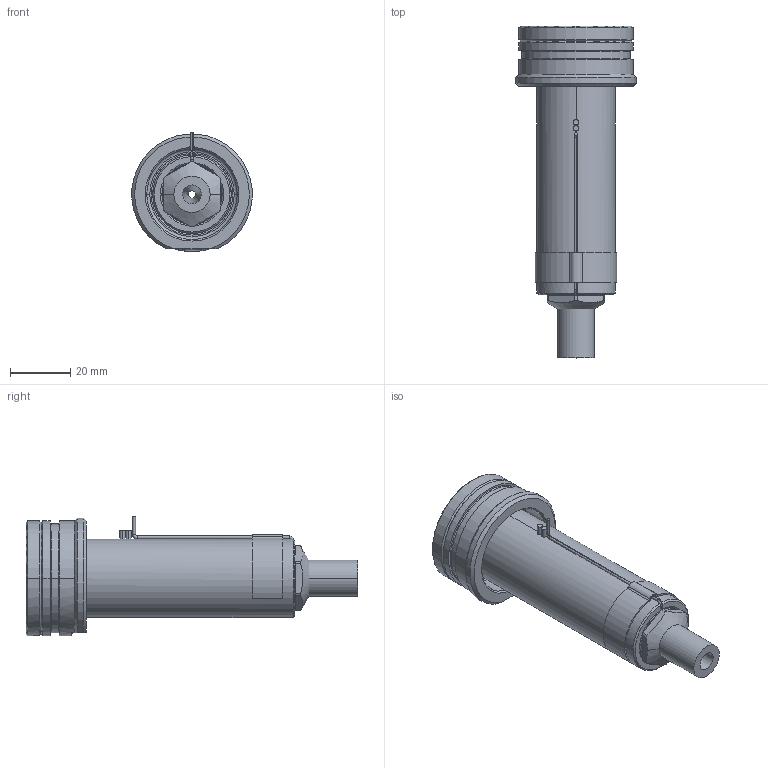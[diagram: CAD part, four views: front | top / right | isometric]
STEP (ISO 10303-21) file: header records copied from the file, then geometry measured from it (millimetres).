
FILE_DESCRIPTION((''),'2;1');
FILE_NAME('EO08_SG_ESG_080_SW','2024-02-19T12:21:44',('sundharh'),(''),'CREO PARAMETRIC BY PTC INC, 2023154','CREO PARAMETRIC BY PTC INC, 2023154','');
FILE_SCHEMA(('CONFIG_CONTROL_DESIGN'));
Length unit declared in the file: millimetre
Products named in the file (1): EO08_SG_ESG_080_SW
Bounding box: 39.88 x 110 x 39.52 mm (x, y, z)
Volume: 55269 mm3; surface area: 17039.6 mm2
Topology: 1 solids, 1 shells, 167 faces, 419 edges, 256 vertices
Faces by surface type: cylinder 64, plane 44, cone 33, torus 19, bspline 4, sphere 3
Entity records: 6144 total; most frequent: CARTESIAN_POINT 2071, DIRECTION 895, ORIENTED_EDGE 826, EDGE_CURVE 413, AXIS2_PLACEMENT_3D 370, VERTEX_POINT 256, CIRCLE 207, EDGE_LOOP 183
